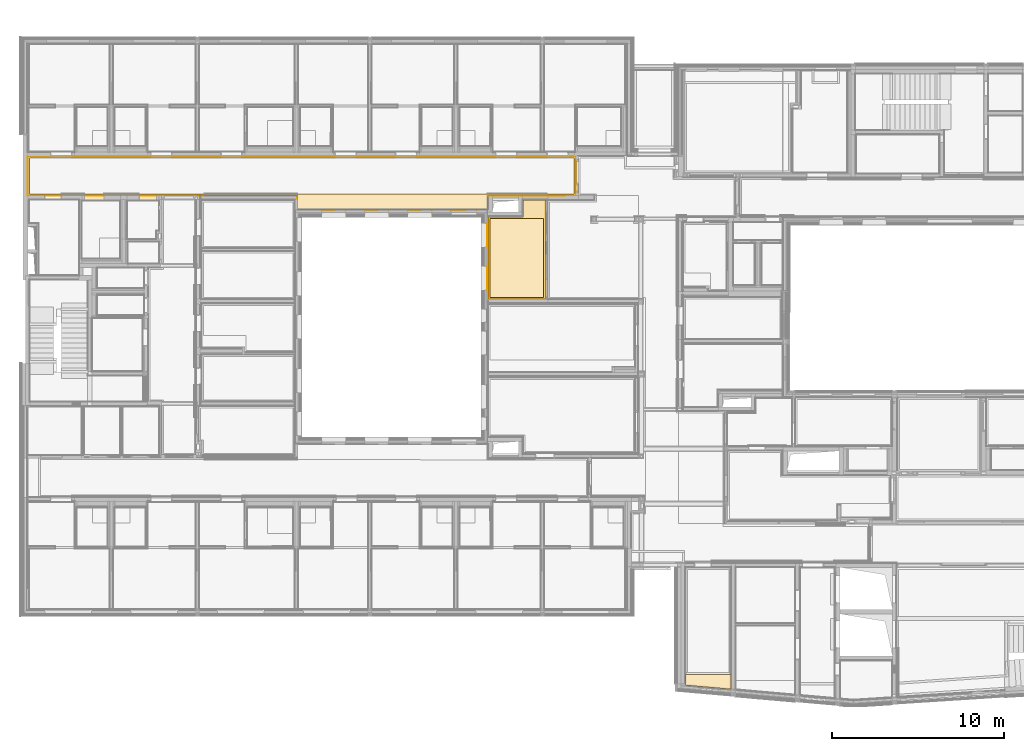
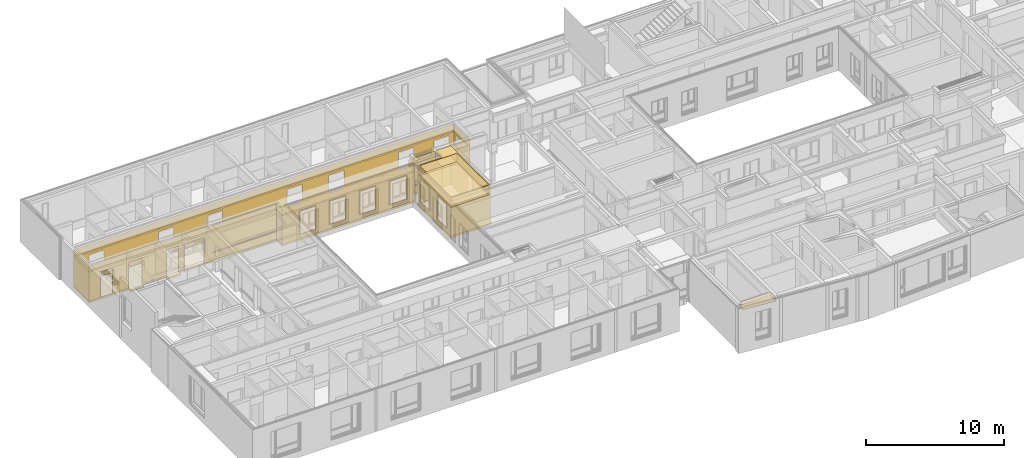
# One storey, part 163 of 222: 20 coverings.
"""IFC4 building model written with IfcOpenShell, lengths in metres."""

from ifc_helpers import new_model, entity, si_unit, converted_unit, derived_unit, frame, frame_2d, origin, origin_with_axes, place, context, subcontext, project, spatial, polyline, rectangle, outline, extrude, material, layer, layer_set, layer_usage, element, save


model = new_model("IFC4")

# Units and contexts
model_context = context("Model", 3, precision=1e-05, world=origin())
body_context = subcontext(model_context, "Body", "Model", "MODEL_VIEW")
ifc_project = project(units=[si_unit("LENGTHUNIT", "METRE"), si_unit("AREAUNIT", "SQUARE_METRE"), si_unit("VOLUMEUNIT", "CUBIC_METRE"), si_unit("MASSUNIT", "GRAM", prefix="KILO"), converted_unit("PLANEANGLEUNIT", "DEGREE", entity("IfcPlaneAngleMeasure", 0.0174532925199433), si_unit("PLANEANGLEUNIT", "RADIAN"), dimensions=[0, 0, 0, 0, 0, 0, 0]), derived_unit("THERMALTRANSMITTANCEUNIT", [(si_unit("POWERUNIT", "WATT"), 1), (si_unit("THERMODYNAMICTEMPERATUREUNIT", "KELVIN"), -1), (si_unit("LENGTHUNIT", "METRE"), -2)]), derived_unit("VOLUMETRICFLOWRATEUNIT", [(si_unit("LENGTHUNIT", "METRE"), 3), (converted_unit("TIMEUNIT", "hour", entity("IfcTimeMeasure", 3600.0), si_unit("TIMEUNIT", "SECOND"), dimensions=[0, 0, 1, 0, 0, 0, 0]), -1), (si_unit("LENGTHUNIT", "METRE"), -1)])], contexts=[model_context])

# Site, building, storey, space
site_placement = place(None, origin())
site = spatial("IfcSite", under=ifc_project, at=site_placement, Name="Psychiatrie Neubau Wunstorf", CompositionType="ELEMENT")
building_placement = place(site_placement, origin())
building = spatial("IfcBuilding", under=site, at=building_placement, Name="Neubau H2 Stationsgebäude", CompositionType="ELEMENT")
storey_placement = place(building_placement, frame((0.0, 0.0, 3.6)))
storey = spatial("IfcBuildingStorey", under=building, at=storey_placement, Name="H2 Ebene +1", CompositionType="ELEMENT", Elevation=3.6)
space_1_placement = place(storey_placement, frame((0.169000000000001, 21.036, 0.0)))
space_1 = spatial("IfcSpace", under=storey, at=space_1_placement, Name="WUN-H2-E01-073", CompositionType="ELEMENT")

# Coverings
ifc_material_1 = material(Name="97")
ifc_layer_1 = layer(ifc_material_1, 0.001)
ifc_layer_set_1 = layer_set([ifc_layer_1])
ifc_layer_usage_1 = layer_usage(ifc_layer_set_1, "AXIS3", "POSITIVE", 0.0)
covering_1_placement = place(space_1_placement, frame((26.651, 0.800000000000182, 0.8)))
element("IfcCovering", 1, at=covering_1_placement, inside=space_1, material=ifc_layer_usage_1, Name="Handlauf", PredefinedType="CLADDING", context=body_context, shape_type="SweptSolid", body=[
    extrude(rectangle(XDim=4.47800000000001, YDim=0.1, at=frame_2d((-2.239, 0.05), x_axis=(-1.0, 0.0))), frame((4.47800000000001, 0.0, 0.1), z_axis=(0.0, 1.0, 0.0), x_axis=(1.0, 0.0, 0.0)), (0.0, 0.0, 1.0), 0.001),
])
ifc_material_2 = material(Name="97")
ifc_layer_2 = layer(ifc_material_2, 0.001)
ifc_layer_set_2 = layer_set([ifc_layer_2])
ifc_layer_usage_2 = layer_usage(ifc_layer_set_2, "AXIS3", "POSITIVE", 0.0)
covering_2_placement = place(space_1_placement, frame((2.571, 3.08150000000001, 0.8)))
element("IfcCovering", 2, at=covering_2_placement, inside=space_1, material=ifc_layer_usage_2, Name="Handlauf", PredefinedType="CLADDING", context=body_context, shape_type="SweptSolid", body=[
    extrude(rectangle(XDim=0.1, YDim=5.36499999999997, at=frame_2d((2.68249999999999, 0.05), x_axis=(0.0, 1.0))), frame((15.225, 0.0, 0.1), z_axis=(-3.39047419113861e-16, -1.0, -1.81898940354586e-14), x_axis=(-1.0, 3.39047419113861e-16, 0.0)), (0.0, 0.0, 1.0), 0.001),
    extrude(rectangle(XDim=0.1, YDim=4.535, at=frame_2d((2.2675, 0.05), x_axis=(0.0, 1.0))), frame((4.535, 0.0, 0.1), z_axis=(4.01100199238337e-16, -1.0, -1.81898940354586e-14), x_axis=(-1.0, -4.01100199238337e-16, 0.0)), (0.0, 0.0, 1.0), 0.001),
    extrude(rectangle(XDim=0.1, YDim=2.80500000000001, at=frame_2d((1.40250000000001, 0.05), x_axis=(-1.81898940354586e-14, 1.0))), frame((8.60000000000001, 0.0, 0.1), z_axis=(-1.29696214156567e-15, -1.0, -3.63797880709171e-14), x_axis=(-1.0, 1.29696214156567e-15, 0.0)), (0.0, 0.0, 1.0), 0.001),
    extrude(rectangle(XDim=0.1, YDim=4.55, at=frame_2d((-2.275, -0.05), x_axis=(0.0, -1.0))), frame((19.985, 0.0, 0.0), z_axis=(-7.99555781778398e-16, -1.0, 0.0), x_axis=(-1.0, 7.99555781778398e-16, 0.0)), (0.0, 0.0, 1.0), 0.001),
    extrude(rectangle(XDim=0.1, YDim=2.24000000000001, at=frame_2d((-1.12, -0.05), x_axis=(0.0, -1.0))), frame((16.485, 0.0, 0.0), z_axis=(0.0, -1.0, 0.0), x_axis=(-1.0, 0.0, 0.0)), (0.0, 0.0, 1.0), 0.001),
    extrude(rectangle(XDim=0.1, YDim=1.71500000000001, at=frame_2d((-0.857500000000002, -0.05), x_axis=(3.63797880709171e-14, -1.0))), frame((25.795, 0.0, 0.0), z_axis=(0.0, -1.0, 0.0), x_axis=(-1.0, 0.0, 0.0)), (0.0, 0.0, 1.0), 0.001),
])
ifc_material_3 = material(Name="A1")
ifc_layer_3 = layer(ifc_material_3, 0.15)
ifc_layer_set_3 = layer_set([ifc_layer_3])
ifc_layer_usage_3 = layer_usage(ifc_layer_set_3, "AXIS3", "POSITIVE", 0.0)
covering_3_placement = place(space_1_placement, frame((0.0, 0.0, 2.8)))
element("IfcCovering", 3, at=covering_3_placement, inside=space_1, material=ifc_layer_usage_3, Name="Gipsfaserplatten 2-lagig (BSK)", PredefinedType="CEILING", context=body_context, shape_type="SweptSolid", body=[
    extrude(outline(polyline([(0.0, 2.28150000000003), (0.0, 0.0), (31.759, 0.0), (31.759, 2.28150000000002), (26.651, 2.2815), (26.651, 3.0815), (15.62, 3.0815), (15.62, 2.28150000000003), (0.0, 2.28150000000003)]), holes=[polyline([(0.1, 0.0999999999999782), (0.1, 2.18149999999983), (31.659, 2.18149999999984), (31.659, 0.0999999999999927), (0.1, 0.0999999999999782)])]), frame((0.0, 3.0815, 0.0), z_axis=(0.0, 0.0, -1.0), x_axis=(1.0, 0.0, 0.0)), (0.0, 0.0, 1.0), 0.15),
])
ifc_material_4 = material(Name="D1")
ifc_layer_4 = layer(ifc_material_4, 0.001)
ifc_layer_set_4 = layer_set([ifc_layer_4])
ifc_layer_usage_4 = layer_usage(ifc_layer_set_4, "AXIS3", "POSITIVE", 0.0)
covering_4_placement = place(space_1_placement, frame((0.0, 0.0, 2.65)))
element("IfcCovering", 4, at=covering_4_placement, inside=space_1, material=ifc_layer_usage_4, Name="Gipsfaserplatten 2-lagig (BSK)", PredefinedType="CEILING", context=body_context, shape_type="SweptSolid", body=[
    extrude(outline(polyline([(0.0, 2.28150000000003), (0.0, 0.0), (31.759, 0.0), (31.759, 2.28150000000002), (26.651, 2.2815), (26.651, 3.0815), (15.62, 3.0815), (15.62, 2.28150000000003), (0.0, 2.28150000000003)]), holes=[polyline([(0.1, 0.0999999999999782), (0.1, 2.18149999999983), (31.659, 2.18149999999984), (31.659, 0.0999999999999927), (0.1, 0.0999999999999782)])]), frame((0.0, 3.0815, 0.0), z_axis=(0.0, 0.0, -1.0), x_axis=(1.0, 0.0, 0.0)), (0.0, 0.0, 1.0), 0.001),
])
ifc_material_5 = material(Name="Ku1")
ifc_layer_5 = layer(ifc_material_5, 0.15)
ifc_layer_set_5 = layer_set([ifc_layer_5])
ifc_layer_usage_5 = layer_usage(ifc_layer_set_5, "AXIS3", "POSITIVE", 0.0)
covering_5_placement = place(space_1_placement, origin())
element("IfcCovering", 5, at=covering_5_placement, inside=space_1, material=ifc_layer_usage_5, Name="PVC Bahnenware Holzoptik", PredefinedType="FLOORING", context=body_context, shape_type="SweptSolid", body=[
    extrude(rectangle(XDim=0.0399999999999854, YDim=1.6825, at=frame_2d((0.84125, -0.0199999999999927), x_axis=(0.0, -1.0))), frame((7.911, 0.799999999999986, 0.0), z_axis=(1.35140371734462e-16, 5.68434188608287e-15, 1.0), x_axis=(1.0, 0.0, 0.0)), (0.0, -5.68434188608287e-15, 1.0), 0.15),
    extrude(rectangle(XDim=0.114999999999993, YDim=1.9715, at=frame_2d((-0.0574999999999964, -0.98575), x_axis=(-1.0, 0.0))), frame((31.874, 2.92650000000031, 0.0), z_axis=(0.0, 0.0, 1.0), x_axis=(1.0, 0.0, 0.0)), (0.0, 0.0, 1.0), 0.15),
    extrude(rectangle(XDim=0.307, YDim=1.01, at=frame_2d((0.505, -0.1535), x_axis=(0.0, -1.0))), frame((6.44599350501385, 0.799999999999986, 0.0), z_axis=(0.0, 0.0, 1.0), x_axis=(1.0, 0.0, 0.0)), (0.0, 0.0, 1.0), 0.15),
    extrude(rectangle(XDim=0.307, YDim=1.135, at=frame_2d((0.5675, -0.1535), x_axis=(0.0, -1.0))), frame((3.28100622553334, 0.799999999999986, 0.0), z_axis=(0.0, 0.0, 1.0), x_axis=(1.0, 0.0, 0.0)), (0.0, 0.0, 1.0), 0.15),
    extrude(outline(polyline([(31.759, 3.0815), (0.0, 3.08150000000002), (0.0, 0.799999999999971), (15.62, 0.799999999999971), (15.62, 0.0), (26.651, 0.0), (26.651, 0.800000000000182), (31.759, 0.80000000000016), (31.759, 3.0815)])), origin_with_axes(), (0.0, 0.0, 1.0), 0.15),
])
ifc_material_6 = material(Name="49")
ifc_layer_6 = layer(ifc_material_6, 0.001)
ifc_layer_set_6 = layer_set([ifc_layer_6])
ifc_layer_usage_6 = layer_usage(ifc_layer_set_6, "AXIS3", "POSITIVE", 0.0)
covering_6_placement = place(space_1_placement, frame((0.0, -0.108349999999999, 0.15)))
element("IfcCovering", 6, at=covering_6_placement, inside=space_1, material=ifc_layer_usage_6, PredefinedType="CLADDING", context=body_context, shape_type="SweptSolid", body=[
    extrude(outline(polyline([(0.0, 3.15), (5.10800000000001, 3.15), (5.10800000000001, 0.0), (0.0, 0.0), (0.0, 2.4), (4.47800000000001, 2.4), (4.47800000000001, 2.5), (0.0, 2.5), (0.0, 3.15)])), frame((26.651, 0.908350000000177, 3.15), z_axis=(3.77241915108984e-15, 1.0, 1.80672651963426e-15), x_axis=(1.0, -3.77241915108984e-15, 0.0)), (0.0, 0.0, 1.0), 0.001),
    extrude(outline(polyline([(0.0, 3.15), (0.155000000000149, 3.15), (0.155000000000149, 0.89), (2.12650000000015, 0.89), (2.12650000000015, 3.15), (2.28149999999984, 3.15), (2.28149999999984, 0.0), (0.0, 0.0), (0.0, 3.15)])), frame((31.759, 0.908350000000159, 3.15), z_axis=(-1.0, 0.0, 7.99062621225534e-16), x_axis=(0.0, 1.0, 0.0)), (0.0, 0.0, 1.0), 0.001),
    extrude(outline(polyline([(0.0, 3.15), (0.418000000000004, 3.15), (0.418000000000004, 0.89), (1.678, 0.89), (1.678, 2.4), (3.39300000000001, 2.4), (3.393, 0.89), (4.653, 0.89), (4.65300000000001, 2.4), (9.20300000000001, 2.4), (9.20300000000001, 0.89), (10.463, 0.89), (10.463, 2.4), (12.703, 2.4), (12.703, 0.89), (13.963, 0.89), (13.963, 2.4), (19.328, 2.4), (19.328, 0.89), (20.588, 0.89), (20.588, 2.4), (23.393, 2.4), (23.393, 0.89), (24.653, 0.89), (24.653, 2.4), (29.188, 2.4), (29.188, 2.5), (24.653, 2.5), (24.653, 3.15), (29.203, 3.15), (29.203, 0.89), (30.463, 0.89), (30.463, 3.15), (31.759, 3.15), (31.759, 0.0), (0.0, 0.0), (0.0, 3.15)])), frame((31.759, 3.18984999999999, 3.15), z_axis=(-3.6514615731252e-16, -1.0, -3.59159407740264e-15), x_axis=(-1.0, 3.6514615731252e-16, 0.0)), (0.0, 0.0, 1.0), 0.001),
    extrude(rectangle(XDim=0.65, YDim=2.80500000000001, at=frame_2d((-1.40250000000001, -0.325), x_axis=(0.0, -1.0))), frame((8.366, 3.18985000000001, 0.0), z_axis=(0.0, -1.0, 0.0), x_axis=(-1.0, 0.0, 0.0)), (0.0, 0.0, 1.0), 0.001),
    extrude(rectangle(XDim=0.65, YDim=5.36499999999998, at=frame_2d((-2.68249999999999, -0.325), x_axis=(-5.59689047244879e-15, -1.0))), frame((12.431, 3.18985000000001, 0.0), z_axis=(-3.39047419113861e-16, -1.0, 2.7984452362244e-15), x_axis=(-1.0, 3.39047419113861e-16, 0.0)), (0.0, 0.0, 1.0), 0.001),
    extrude(rectangle(XDim=0.65, YDim=4.55000000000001, at=frame_2d((-2.275, -0.325), x_axis=(0.0, -1.0))), frame((22.556, 3.18985, 0.0), z_axis=(-3.99777890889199e-16, -1.0, 1.3992226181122e-14), x_axis=(-1.0, 3.99777890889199e-16, 0.0)), (0.0, 0.0, 1.0), 0.001),
    extrude(rectangle(XDim=0.65, YDim=2.24000000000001, at=frame_2d((-1.12000000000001, -0.325), x_axis=(-5.59689047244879e-15, -1.0))), frame((19.056, 3.18985, 0.0), z_axis=(0.0, -1.0, 1.11937809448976e-14), x_axis=(-1.0, 0.0, 0.0)), (0.0, 0.0, 1.0), 0.001),
    extrude(rectangle(XDim=0.65, YDim=1.715, at=frame_2d((-0.857500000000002, -0.325), x_axis=(-5.59689047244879e-15, -1.0))), frame((28.366, 3.18985, 0.0), z_axis=(0.0, -1.0, 2.23875618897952e-14), x_axis=(-1.0, 0.0, 0.0)), (0.0, 0.0, 1.0), 0.001),
    extrude(rectangle(XDim=2.28150000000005, YDim=3.15, at=frame_2d((1.14075000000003, -1.575), x_axis=(1.0, 0.0))), frame((0.0, 3.18985000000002, 0.0), z_axis=(1.0, 0.0, 0.0), x_axis=(0.0, -1.0, 0.0)), (0.0, 0.0, 1.0), 0.001),
    extrude(outline(polyline([(0.0, 3.15), (0.948454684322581, 3.15), (0.948454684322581, 0.89), (1.95845468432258, 0.89), (1.95845468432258, 3.15), (3.28100622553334, 3.15), (3.28100622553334, 0.89), (4.41600622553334, 0.89), (4.41600622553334, 3.15), (6.44599350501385, 3.15), (6.44599350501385, 0.89), (7.45599350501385, 0.89), (7.45599350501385, 3.15), (7.911, 3.15), (7.911, 0.89), (9.5935, 0.89), (9.5935, 3.15), (15.62, 3.15), (15.62, 2.5), (10.241, 2.5), (10.241, 2.4), (15.62, 2.4), (15.62, 0.0), (0.0, 0.0), (0.0, 3.15)])), frame((0.0, 0.908349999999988, 3.15), z_axis=(-1.97446556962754e-16, 1.0, -2.81077853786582e-15), x_axis=(1.0, 1.97446556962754e-16, 0.0)), (0.0, 0.0, 1.0), 0.001),
    extrude(rectangle(XDim=0.799999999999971, YDim=3.15, at=frame_2d((0.399999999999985, -1.575), x_axis=(1.0, 0.0))), frame((15.62, 0.908349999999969, 0.0), z_axis=(1.0, 0.0, 0.0), x_axis=(0.0, -1.0, 0.0)), (0.0, 0.0, 1.0), 0.001),
    extrude(outline(polyline([(0.0, 3.15), (11.031, 3.15), (11.031, 0.0), (0.0, 0.0), (0.0, 3.15)]), holes=[polyline([(2.7812512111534, 2.75), (1.4312512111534, 2.75), (1.4312512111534, 0.635), (2.7812512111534, 0.635), (2.7812512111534, 2.75)]), polyline([(5.2812512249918, 2.75), (3.9312512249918, 2.75), (3.9312512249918, 0.635), (5.2812512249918, 0.635), (5.2812512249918, 2.75)]), polyline([(7.78125121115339, 2.75), (6.43125121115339, 2.75), (6.43125121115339, 0.635), (7.78125121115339, 0.635), (7.78125121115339, 2.75)]), polyline([(10.3811640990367, 2.75), (8.93116409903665, 2.75), (8.93116409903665, 0.635), (10.3811640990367, 0.635), (10.3811640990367, 2.75)])]), frame((15.62, 0.108349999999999, 3.15), z_axis=(0.0, 1.0, 0.0), x_axis=(1.0, 0.0, 0.0)), (0.0, 0.0, 1.0), 0.001),
    extrude(rectangle(XDim=0.800000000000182, YDim=3.15, at=frame_2d((0.400000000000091, -1.575), x_axis=(1.0, 0.0))), frame((26.651, 0.108349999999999, 0.0), z_axis=(-1.0, 0.0, 0.0), x_axis=(0.0, 1.0, 0.0)), (0.0, 0.0, 1.0), 0.001),
    extrude(rectangle(XDim=0.035, YDim=2.26, at=frame_2d((0.0175, -1.13), x_axis=(1.0, 0.0))), frame((31.759, 1.06335000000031, 0.0), z_axis=(5.19711258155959e-14, 1.0, 8.04862567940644e-16), x_axis=(1.0, -5.19711258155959e-14, 0.0)), (0.0, 0.0, 1.0), 0.001),
    extrude(rectangle(XDim=1.9715, YDim=0.035, at=frame_2d((0.0175, 0.985750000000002), x_axis=(0.0, 1.0))), frame((31.759, 3.03485000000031, 2.26), z_axis=(0.0, 0.0, -1.0), x_axis=(1.0, 0.0, 0.0)), (0.0, 0.0, 1.0), 0.001),
    extrude(rectangle(XDim=2.26, YDim=0.035, at=frame_2d((0.0175, 1.13), x_axis=(0.0, 1.0))), frame((31.794, 3.03485000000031, 2.26), z_axis=(1.03942251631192e-13, -1.0, 1.60972513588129e-15), x_axis=(-1.0, -1.03942251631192e-13, 0.0)), (0.0, 0.0, 1.0), 0.001),
    extrude(rectangle(XDim=2.26, YDim=0.0400000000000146, at=frame_2d((0.0200000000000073, 1.13), x_axis=(0.0, 1.0))), frame((9.5935, 0.868349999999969, 2.26), z_axis=(-1.0, 0.0, 0.0), x_axis=(0.0, 1.0, 0.0)), (0.0, 0.0, 1.0), 0.001),
    extrude(rectangle(XDim=1.6825, YDim=0.0400000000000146, at=frame_2d((0.84125, -0.0200000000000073), x_axis=(1.0, 0.0))), frame((7.911, 0.868349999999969, 2.26), z_axis=(0.0, 0.0, -1.0), x_axis=(1.0, 0.0, 0.0)), (0.0, 0.0, 1.0), 0.001),
    extrude(rectangle(XDim=0.0400000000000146, YDim=2.26, at=frame_2d((0.0200000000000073, -1.13), x_axis=(1.0, 0.0))), frame((7.911, 0.908349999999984, 0.0), z_axis=(1.0, 0.0, 0.0), x_axis=(0.0, -1.0, 0.0)), (0.0, 0.0, 1.0), 0.001),
    extrude(rectangle(XDim=1.35, YDim=0.108349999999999, at=frame_2d((0.675, -0.0541749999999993), x_axis=(1.0, 0.0))), frame((17.0512512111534, 0.0, 2.515), z_axis=(0.0, 0.0, -1.0), x_axis=(1.0, 0.0, 0.0)), (0.0, 0.0, 1.0), 0.001),
    extrude(rectangle(XDim=2.115, YDim=0.108349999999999, at=frame_2d((-0.0541749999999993, -1.0575), x_axis=(0.0, -1.0))), frame((17.0512512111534, 0.0, 0.4), z_axis=(1.0, 0.0, 0.0), x_axis=(0.0, -1.0, 0.0)), (0.0, 0.0, 1.0), 0.001),
    extrude(rectangle(XDim=2.115, YDim=0.108349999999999, at=frame_2d((-0.0541749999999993, -1.0575), x_axis=(0.0, -1.0))), frame((18.4012512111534, 0.108349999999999, 0.4), z_axis=(-1.0, 0.0, 0.0), x_axis=(0.0, 1.0, 0.0)), (0.0, 0.0, 1.0), 0.001),
    extrude(rectangle(XDim=1.35, YDim=0.108349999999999, at=frame_2d((0.675, -0.0541749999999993), x_axis=(1.0, 0.0))), frame((19.5512512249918, 0.0, 2.515), z_axis=(0.0, 0.0, -1.0), x_axis=(1.0, 0.0, 0.0)), (0.0, 0.0, 1.0), 0.001),
    extrude(rectangle(XDim=2.115, YDim=0.108349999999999, at=frame_2d((-0.0541749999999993, -1.0575), x_axis=(0.0, -1.0))), frame((19.5512512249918, 0.0, 0.4), z_axis=(1.0, 0.0, 0.0), x_axis=(0.0, -1.0, 0.0)), (0.0, 0.0, 1.0), 0.001),
    extrude(rectangle(XDim=2.115, YDim=0.108349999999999, at=frame_2d((-0.0541749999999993, -1.0575), x_axis=(0.0, -1.0))), frame((20.9012512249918, 0.108349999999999, 0.4), z_axis=(-1.0, 0.0, 0.0), x_axis=(0.0, 1.0, 0.0)), (0.0, 0.0, 1.0), 0.001),
    extrude(rectangle(XDim=1.35, YDim=0.108349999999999, at=frame_2d((0.675, -0.0541749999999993), x_axis=(1.0, 0.0))), frame((22.0512512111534, 0.0, 2.515), z_axis=(0.0, 0.0, -1.0), x_axis=(1.0, 0.0, 0.0)), (0.0, 0.0, 1.0), 0.001),
    extrude(rectangle(XDim=2.115, YDim=0.108349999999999, at=frame_2d((-0.0541749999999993, -1.0575), x_axis=(0.0, -1.0))), frame((22.0512512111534, 0.0, 0.4), z_axis=(1.0, 0.0, 0.0), x_axis=(0.0, -1.0, 0.0)), (0.0, 0.0, 1.0), 0.001),
    extrude(rectangle(XDim=2.115, YDim=0.108349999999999, at=frame_2d((-0.0541749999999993, -1.0575), x_axis=(0.0, -1.0))), frame((23.4012512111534, 0.108349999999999, 0.4), z_axis=(-1.0, 0.0, 0.0), x_axis=(0.0, 1.0, 0.0)), (0.0, 0.0, 1.0), 0.001),
    extrude(rectangle(XDim=1.45, YDim=0.108349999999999, at=frame_2d((0.725, -0.0541749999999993), x_axis=(1.0, 0.0))), frame((24.5511640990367, 0.0, 2.515), z_axis=(0.0, 0.0, -1.0), x_axis=(1.0, 0.0, 0.0)), (0.0, 0.0, 1.0), 0.001),
    extrude(rectangle(XDim=2.115, YDim=0.108349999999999, at=frame_2d((-0.0541749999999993, -1.0575), x_axis=(0.0, -1.0))), frame((24.5511640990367, 0.0, 0.4), z_axis=(1.0, 0.0, 0.0), x_axis=(0.0, -1.0, 0.0)), (0.0, 0.0, 1.0), 0.001),
    extrude(rectangle(XDim=2.115, YDim=0.108349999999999, at=frame_2d((-0.0541749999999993, -1.0575), x_axis=(0.0, -1.0))), frame((26.0011640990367, 0.108349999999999, 0.4), z_axis=(-1.0, 0.0, 0.0), x_axis=(0.0, 1.0, 0.0)), (0.0, 0.0, 1.0), 0.001),
])

# Space
space_2_placement = place(storey_placement, frame((26.861, 15.8324990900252, 0.0)))
space_2 = spatial("IfcSpace", under=storey, at=space_2_placement, Name="WUN-H2-E01-007", CompositionType="ELEMENT")

# Coverings
ifc_material_7 = material()
ifc_layer_7 = layer(ifc_material_7, 0.036)
ifc_layer_set_7 = layer_set([ifc_layer_7])
ifc_layer_usage_7 = layer_usage(ifc_layer_set_7, "AXIS3", "POSITIVE", 0.0)
covering_7_placement = place(space_2_placement, frame((0.0, 0.0, 3.55)))
element("IfcCovering", 7, at=covering_7_placement, inside=space_2, material=ifc_layer_usage_7, Name="Gipsfaserplatten 2-lagig (BSK)", PredefinedType="CEILING", context=body_context, shape_type="SweptSolid", body=[
    extrude(outline(polyline([(0.0, 0.969), (2.01900000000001, 0.969), (2.01899999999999, 0.0), (3.30584904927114, 0.0), (3.30584904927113, 5.73150090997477), (0.0, 5.73150090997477), (0.0, 0.969)]), holes=[polyline([(0.100000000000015, 5.63150090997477), (3.20584904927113, 5.63150090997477), (3.20584904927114, 1.069), (0.1, 1.069), (0.100000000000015, 5.63150090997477)])]), frame((0.0, 5.73150090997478, 0.0), z_axis=(0.0, 0.0, -1.0), x_axis=(1.0, 0.0, 0.0)), (0.0, 0.0, 1.0), 0.036),
])
ifc_material_8 = material(Name="Installationshöhe")
ifc_layer_8 = layer(ifc_material_8, 0.714)
ifc_layer_set_8 = layer_set([ifc_layer_8])
ifc_layer_usage_8 = layer_usage(ifc_layer_set_8, "AXIS3", "POSITIVE", 0.0)
covering_8_placement = place(space_2_placement, frame((0.0, 0.0, 3.514)))
element("IfcCovering", 8, at=covering_8_placement, inside=space_2, material=ifc_layer_usage_8, Name="Gipsfaserplatten 2-lagig (BSK)", PredefinedType="CEILING", context=body_context, shape_type="SweptSolid", body=[
    extrude(outline(polyline([(0.0, 0.969), (2.01900000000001, 0.969), (2.01899999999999, 0.0), (3.30584904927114, 0.0), (3.30584904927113, 5.73150090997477), (0.0, 5.73150090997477), (0.0, 0.969)]), holes=[polyline([(0.100000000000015, 5.63150090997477), (3.20584904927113, 5.63150090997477), (3.20584904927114, 1.069), (0.1, 1.069), (0.100000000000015, 5.63150090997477)])]), frame((0.0, 5.73150090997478, 0.0), z_axis=(0.0, 0.0, -1.0), x_axis=(1.0, 0.0, 0.0)), (0.0, 0.0, 1.0), 0.714),
])
ifc_material_9 = material(Name="A1")
ifc_layer_9 = layer(ifc_material_9, 0.15)
ifc_layer_set_9 = layer_set([ifc_layer_9])
ifc_layer_usage_9 = layer_usage(ifc_layer_set_9, "AXIS3", "POSITIVE", 0.0)
covering_9_placement = place(space_2_placement, frame((0.0, 0.0, 2.8)))
element("IfcCovering", 9, at=covering_9_placement, inside=space_2, material=ifc_layer_usage_9, Name="Gipsfaserplatten 2-lagig (BSK)", PredefinedType="CEILING", context=body_context, shape_type="SweptSolid", body=[
    extrude(outline(polyline([(0.0, 0.969), (2.01900000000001, 0.969), (2.01899999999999, 0.0), (3.30584904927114, 0.0), (3.30584904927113, 5.73150090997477), (0.0, 5.73150090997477), (0.0, 0.969)]), holes=[polyline([(0.100000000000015, 5.63150090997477), (3.20584904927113, 5.63150090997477), (3.20584904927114, 1.069), (0.1, 1.069), (0.100000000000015, 5.63150090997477)])]), frame((0.0, 5.73150090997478, 0.0), z_axis=(0.0, 0.0, -1.0), x_axis=(1.0, 0.0, 0.0)), (0.0, 0.0, 1.0), 0.15),
])
ifc_material_10 = material(Name="D1")
ifc_layer_10 = layer(ifc_material_10, 0.001)
ifc_layer_set_10 = layer_set([ifc_layer_10])
ifc_layer_usage_10 = layer_usage(ifc_layer_set_10, "AXIS3", "POSITIVE", 0.0)
covering_10_placement = place(space_2_placement, frame((0.0, 0.0, 2.65)))
element("IfcCovering", 10, at=covering_10_placement, inside=space_2, material=ifc_layer_usage_10, Name="Gipsfaserplatten 2-lagig (BSK)", PredefinedType="CEILING", context=body_context, shape_type="SweptSolid", body=[
    extrude(outline(polyline([(0.0, 0.969), (2.01900000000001, 0.969), (2.01899999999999, 0.0), (3.30584904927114, 0.0), (3.30584904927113, 5.73150090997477), (0.0, 5.73150090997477), (0.0, 0.969)]), holes=[polyline([(0.100000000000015, 5.63150090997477), (3.20584904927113, 5.63150090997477), (3.20584904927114, 1.069), (0.1, 1.069), (0.100000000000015, 5.63150090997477)])]), frame((0.0, 5.73150090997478, 0.0), z_axis=(0.0, 0.0, -1.0), x_axis=(1.0, 0.0, 0.0)), (0.0, 0.0, 1.0), 0.001),
])
ifc_material_11 = material()
ifc_layer_11 = layer(ifc_material_11, 0.036)
ifc_layer_set_11 = layer_set([ifc_layer_11])
ifc_layer_usage_11 = layer_usage(ifc_layer_set_11, "AXIS3", "POSITIVE", 0.0)
covering_11_placement = place(space_2_placement, frame((0.1, 0.1, 3.55)))
element("IfcCovering", 11, at=covering_11_placement, inside=space_2, material=ifc_layer_usage_11, Name="Gipsfaserplatten 2-lagig (BSK)", PredefinedType="CEILING", context=body_context, shape_type="SweptSolid", body=[
    extrude(rectangle(XDim=4.56250090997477, YDim=3.10584904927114, at=frame_2d((1.55292452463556, -2.28125045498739), x_axis=(-3.18946023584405e-15, -1.0))), frame((0.0, 0.0, 0.0), z_axis=(0.0, 0.0, -1.0), x_axis=(1.0, 0.0, 0.0)), (0.0, 0.0, 1.0), 0.036),
])
ifc_material_12 = material(Name="Installationshöhe")
ifc_layer_12 = layer(ifc_material_12, 0.714)
ifc_layer_set_12 = layer_set([ifc_layer_12])
ifc_layer_usage_12 = layer_usage(ifc_layer_set_12, "AXIS3", "POSITIVE", 0.0)
covering_12_placement = place(space_2_placement, frame((0.1, 0.1, 3.514)))
element("IfcCovering", 12, at=covering_12_placement, inside=space_2, material=ifc_layer_usage_12, Name="Gipsfaserplatten 2-lagig (BSK)", PredefinedType="CEILING", context=body_context, shape_type="SweptSolid", body=[
    extrude(rectangle(XDim=4.56250090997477, YDim=3.10584904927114, at=frame_2d((1.55292452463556, -2.28125045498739), x_axis=(-3.18946023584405e-15, -1.0))), frame((0.0, 0.0, 0.0), z_axis=(0.0, 0.0, -1.0), x_axis=(1.0, 0.0, 0.0)), (0.0, 0.0, 1.0), 0.714),
])
ifc_material_13 = material(Name="Aa")
ifc_layer_13 = layer(ifc_material_13, 0.15)
ifc_layer_set_13 = layer_set([ifc_layer_13])
ifc_layer_usage_13 = layer_usage(ifc_layer_set_13, "AXIS3", "POSITIVE", 0.0)
covering_13_placement = place(space_2_placement, frame((0.1, 0.1, 2.8)))
element("IfcCovering", 13, at=covering_13_placement, inside=space_2, material=ifc_layer_usage_13, Name="Gipsfaserplatten 2-lagig (BSK)", PredefinedType="CEILING", context=body_context, shape_type="SweptSolid", body=[
    extrude(rectangle(XDim=4.56250090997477, YDim=3.10584904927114, at=frame_2d((1.55292452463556, -2.28125045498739), x_axis=(-3.18946023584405e-15, -1.0))), frame((0.0, 0.0, 0.0), z_axis=(0.0, 0.0, -1.0), x_axis=(1.0, 0.0, 0.0)), (0.0, 0.0, 1.0), 0.15),
])
ifc_material_14 = material(Name="D1")
ifc_layer_14 = layer(ifc_material_14, 0.001)
ifc_layer_set_14 = layer_set([ifc_layer_14])
ifc_layer_usage_14 = layer_usage(ifc_layer_set_14, "AXIS3", "POSITIVE", 0.0)
covering_14_placement = place(space_2_placement, frame((0.1, 0.1, 2.65)))
element("IfcCovering", 14, at=covering_14_placement, inside=space_2, material=ifc_layer_usage_14, Name="Gipsfaserplatten 2-lagig (BSK)", PredefinedType="CEILING", context=body_context, shape_type="SweptSolid", body=[
    extrude(rectangle(XDim=4.56250090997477, YDim=3.10584904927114, at=frame_2d((1.55292452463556, -2.28125045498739), x_axis=(-3.18946023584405e-15, -1.0))), frame((0.0, 0.0, 0.0), z_axis=(0.0, 0.0, -1.0), x_axis=(1.0, 0.0, 0.0)), (0.0, 0.0, 1.0), 0.001),
])
ifc_material_15 = material(Name="Ku1")
ifc_layer_15 = layer(ifc_material_15, 0.15)
ifc_layer_set_15 = layer_set([ifc_layer_15])
ifc_layer_usage_15 = layer_usage(ifc_layer_set_15, "AXIS3", "POSITIVE", 0.0)
covering_15_placement = place(space_2_placement, origin())
element("IfcCovering", 15, at=covering_15_placement, inside=space_2, material=ifc_layer_usage_15, Name="PVC Bahnenware Holzoptik", PredefinedType="FLOORING", context=body_context, shape_type="SweptSolid", body=[
    extrude(rectangle(XDim=0.15, YDim=1.01, at=frame_2d((0.075, 0.505), x_axis=(1.0, 0.0))), frame((3.30584904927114, 0.125009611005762, 0.0), z_axis=(0.0, 0.0, 1.0), x_axis=(1.0, 0.0, 0.0)), (0.0, 0.0, 1.0), 0.15),
    extrude(outline(polyline([(0.0, 0.0), (3.30584904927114, 0.0), (3.30584904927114, 5.73150090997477), (2.01899999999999, 5.73150090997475), (2.01900000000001, 4.76250090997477), (0.0, 4.76250090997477), (0.0, 0.0)])), origin_with_axes(), (0.0, 0.0, 1.0), 0.15),
])
ifc_material_16 = material(Name="49")
ifc_layer_16 = layer(ifc_material_16, 0.001)
ifc_layer_set_16 = layer_set([ifc_layer_16])
ifc_layer_usage_16 = layer_usage(ifc_layer_set_16, "AXIS3", "POSITIVE", 0.0)
covering_16_placement = place(space_2_placement, frame((-0.05, 0.0, 0.15)))
element("IfcCovering", 16, at=covering_16_placement, inside=space_2, material=ifc_layer_usage_16, PredefinedType="CLADDING", context=body_context, shape_type="SweptSolid", body=[
    extrude(rectangle(XDim=2.01900000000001, YDim=3.15, at=frame_2d((1.0095, -1.575), x_axis=(1.0, 0.0))), frame((2.06900000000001, 4.76250090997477, 0.0), z_axis=(0.0, -1.0, 0.0), x_axis=(-1.0, 0.0, 0.0)), (0.0, 0.0, 1.0), 0.001),
    extrude(outline(polyline([(0.0, 3.15), (4.76250090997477, 3.15), (4.76250090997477, 0.0), (0.0, 0.0), (0.0, 3.15)]), holes=[polyline([(1.73000000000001, 2.75), (0.380000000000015, 2.75), (0.380000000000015, 0.635), (1.73000000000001, 0.635), (1.73000000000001, 2.75)]), polyline([(4.22955986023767, 2.75), (2.87955986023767, 2.75), (2.87955986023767, 0.635), (4.22955986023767, 0.635), (4.22955986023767, 2.75)])]), frame((0.05, 4.76250090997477, 3.15), z_axis=(1.0, 0.0, 0.0), x_axis=(0.0, -1.0, 0.0)), (0.0, 0.0, 1.0), 0.001),
    extrude(rectangle(XDim=3.30584904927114, YDim=3.15, at=frame_2d((1.65292452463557, -1.575), x_axis=(1.0, 0.0))), frame((0.05, 0.0, 0.0), z_axis=(0.0, 1.0, 0.0), x_axis=(1.0, 0.0, 0.0)), (0.0, 0.0, 1.0), 0.001),
    extrude(outline(polyline([(0.0, 3.15), (0.125009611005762, 3.15), (0.12500961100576, 0.89), (1.13500961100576, 0.89), (1.13500961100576, 3.15), (5.73150090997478, 3.15), (5.73150090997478, 0.0), (0.0, 0.0), (0.0, 3.15)]), holes=[polyline([(3.28248292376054, 2.71), (2.6325404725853, 2.71), (2.6325404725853, 0.83), (3.28248292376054, 0.83), (3.28248292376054, 2.71)])]), frame((3.35584904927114, 0.0, 3.15), z_axis=(-1.0, -1.75793574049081e-16, -3.57537005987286e-16), x_axis=(-1.75793574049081e-16, 1.0, 0.0)), (0.0, 0.0, 1.0), 0.001),
    extrude(rectangle(XDim=1.28684904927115, YDim=3.15, at=frame_2d((0.643424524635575, -1.575), x_axis=(1.0, 0.0))), frame((3.35584904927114, 5.73150090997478, 0.0), z_axis=(1.69622636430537e-14, -1.0, 0.0), x_axis=(-1.0, -1.69622636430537e-14, 0.0)), (0.0, 0.0, 1.0), 0.001),
    extrude(rectangle(XDim=0.968999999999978, YDim=3.15, at=frame_2d((0.484499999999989, -1.575), x_axis=(1.0, 0.0))), frame((2.06899999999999, 5.73150090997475, 0.0), z_axis=(1.0, 1.50174563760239e-14, 0.0), x_axis=(1.50174563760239e-14, -1.0, 0.0)), (0.0, 0.0, 1.0), 0.001),
    extrude(rectangle(XDim=0.05, YDim=1.35, at=frame_2d((-0.025, 0.675), x_axis=(-1.0, 0.0))), frame((0.05, 4.38250090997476, 2.515), z_axis=(0.0, 0.0, -1.0), x_axis=(1.0, 0.0, 0.0)), (0.0, 0.0, 1.0), 0.001),
    extrude(rectangle(XDim=0.05, YDim=2.115, at=frame_2d((0.025, -1.0575), x_axis=(1.0, 0.0))), frame((0.05, 4.38250090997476, 0.4), z_axis=(3.63797880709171e-14, -1.0, 8.60042271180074e-16), x_axis=(-1.0, -3.63797880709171e-14, 0.0)), (0.0, 0.0, 1.0), 0.001),
    extrude(rectangle(XDim=2.115, YDim=0.05, at=frame_2d((-0.025, -1.0575), x_axis=(0.0, -1.0))), frame((0.05, 3.03250090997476, 0.4), z_axis=(0.0, 1.0, 0.0), x_axis=(1.0, 0.0, 0.0)), (0.0, 0.0, 1.0), 0.001),
    extrude(rectangle(XDim=0.05, YDim=1.35, at=frame_2d((-0.0249999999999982, 0.675), x_axis=(-1.0, 0.0))), frame((0.05, 1.88294104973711, 2.515), z_axis=(0.0, 0.0, -1.0), x_axis=(1.0, 0.0, 0.0)), (0.0, 0.0, 1.0), 0.001),
    extrude(rectangle(XDim=0.05, YDim=2.115, at=frame_2d((0.025, -1.0575), x_axis=(1.0, 0.0))), frame((0.05, 1.88294104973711, 0.4), z_axis=(0.0, -1.0, 0.0), x_axis=(-1.0, 0.0, 0.0)), (0.0, 0.0, 1.0), 0.001),
    extrude(rectangle(XDim=2.115, YDim=0.0499999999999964, at=frame_2d((-0.0249999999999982, -1.0575), x_axis=(0.0, -1.0))), frame((0.05, 0.532941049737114, 0.4), z_axis=(0.0, 1.0, 8.60042271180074e-16), x_axis=(1.0, 0.0, 0.0)), (0.0, 0.0, 1.0), 0.001),
])

# Space
space_3_placement = place(storey_placement, frame((38.304, -6.7895198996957, 0.0)))
space_3 = spatial("IfcSpace", under=storey, at=space_3_placement, Name="WUN-H2-E01-073", CompositionType="ELEMENT")

# Coverings
ifc_material_17 = material()
ifc_layer_17 = layer(ifc_material_17, 0.036)
ifc_layer_set_17 = layer_set([ifc_layer_17])
ifc_layer_usage_17 = layer_usage(ifc_layer_set_17, "AXIS3", "POSITIVE", 0.0)
covering_17_placement = place(space_3_placement, frame((0.0, 0.0, 3.55)))
element("IfcCovering", 17, at=covering_17_placement, inside=space_3, material=ifc_layer_usage_17, Name="Gipsfaserplatten 2-lagig (BSK)", PredefinedType="CEILING", context=body_context, shape_type="SweptSolid", body=[
    extrude(outline(polyline([(2.62199999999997, 0.846978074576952), (0.0, 0.616933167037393), (0.0, 0.0), (2.62199999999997, 0.0), (2.62199999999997, 0.846978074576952)])), frame((0.0, 0.846978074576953, 0.0), z_axis=(0.0, 0.0, -1.0), x_axis=(1.0, 0.0, 0.0)), (0.0, 0.0, 1.0), 0.036),
])
ifc_material_18 = material(Name="Installationshöhe")
ifc_layer_18 = layer(ifc_material_18, 0.164)
ifc_layer_set_18 = layer_set([ifc_layer_18])
ifc_layer_usage_18 = layer_usage(ifc_layer_set_18, "AXIS3", "POSITIVE", 0.0)
covering_18_placement = place(space_3_placement, frame((0.0, 0.0, 3.514)))
element("IfcCovering", 18, at=covering_18_placement, inside=space_3, material=ifc_layer_usage_18, Name="Gipsfaserplatten 2-lagig (BSK)", PredefinedType="CEILING", context=body_context, shape_type="SweptSolid", body=[
    extrude(outline(polyline([(2.62199999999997, 0.846978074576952), (0.0, 0.616933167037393), (0.0, 0.0), (2.62199999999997, 0.0), (2.62199999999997, 0.846978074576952)])), frame((0.0, 0.846978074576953, 0.0), z_axis=(0.0, 0.0, -1.0), x_axis=(1.0, 0.0, 0.0)), (0.0, 0.0, 1.0), 0.164),
])
ifc_material_19 = material(Name="A1")
ifc_layer_19 = layer(ifc_material_19, 0.1)
ifc_layer_set_19 = layer_set([ifc_layer_19])
ifc_layer_usage_19 = layer_usage(ifc_layer_set_19, "AXIS3", "POSITIVE", 0.0)
covering_19_placement = place(space_3_placement, frame((0.0, 0.0, 3.35)))
element("IfcCovering", 19, at=covering_19_placement, inside=space_3, material=ifc_layer_usage_19, Name="Gipsfaserplatten 2-lagig (BSK)", PredefinedType="CEILING", context=body_context, shape_type="SweptSolid", body=[
    extrude(outline(polyline([(2.62199999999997, 0.846978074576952), (0.0, 0.616933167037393), (0.0, 0.0), (2.62199999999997, 0.0), (2.62199999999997, 0.846978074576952)])), frame((0.0, 0.846978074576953, 0.0), z_axis=(0.0, 0.0, -1.0), x_axis=(1.0, 0.0, 0.0)), (0.0, 0.0, 1.0), 0.1),
])
ifc_material_20 = material(Name="D1")
ifc_layer_20 = layer(ifc_material_20, 0.001)
ifc_layer_set_20 = layer_set([ifc_layer_20])
ifc_layer_usage_20 = layer_usage(ifc_layer_set_20, "AXIS3", "POSITIVE", 0.0)
covering_20_placement = place(space_3_placement, frame((0.0, 0.0, 3.25)))
element("IfcCovering", 20, at=covering_20_placement, inside=space_3, material=ifc_layer_usage_20, Name="Gipsfaserplatten 2-lagig (BSK)", PredefinedType="CEILING", context=body_context, shape_type="SweptSolid", body=[
    extrude(outline(polyline([(2.62199999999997, 0.846978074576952), (0.0, 0.616933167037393), (0.0, 0.0), (2.62199999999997, 0.0), (2.62199999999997, 0.846978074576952)])), frame((0.0, 0.846978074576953, 0.0), z_axis=(0.0, 0.0, -1.0), x_axis=(1.0, 0.0, 0.0)), (0.0, 0.0, 1.0), 0.001),
])

save(model, "model.ifc")
